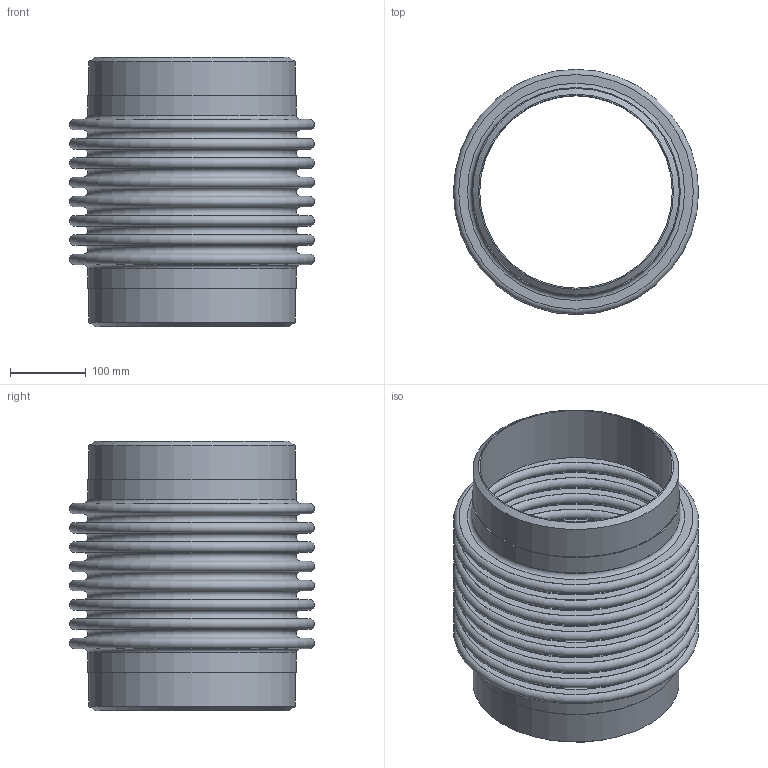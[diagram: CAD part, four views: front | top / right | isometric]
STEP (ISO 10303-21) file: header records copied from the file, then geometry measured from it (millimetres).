
FILE_DESCRIPTION(/* description */ (''),/* implementation_level */ '2;1');
FILE_NAME(/* name */ 'PIPE- 10 - 150 PSIG ASSEMBLY PART.stp',/* time_stamp */ '2026-07-24T15:32:35-05:00',/* author */ ('jorgef'),/* organization */ (''),/* preprocessor_version */ 'ST-DEVELOPER v20.1',/* originating_system */ 'Autodesk Inventor 2026',/* authorisation */ '');
FILE_SCHEMA (('AUTOMOTIVE_DESIGN { 1 0 10303 214 3 1 1 }'));
Length unit declared in the file: inch
Products named in the file (1): PIPE- 10 - 150 PSIG ASSEMBLY PART
Bounding box: 323.85 x 323.85 x 355.6 mm (x, y, z)
Volume: 1760943.9 mm3; surface area: 1222033.1 mm2
Topology: 1 solids, 1 shells, 80 faces, 126 edges, 84 vertices
Faces by surface type: plane 38, torus 34, cylinder 6, cone 2
Full cylindrical faces by diameter (mm): 254.508 x2, 273.05 x2, 275.488 x2
Entity records: 2035 total; most frequent: DIRECTION 406, CARTESIAN_POINT 291, ORIENTED_EDGE 252, AXIS2_PLACEMENT_3D 199, EDGE_CURVE 126, EDGE_LOOP 118, CIRCLE 118, VERTEX_POINT 84
